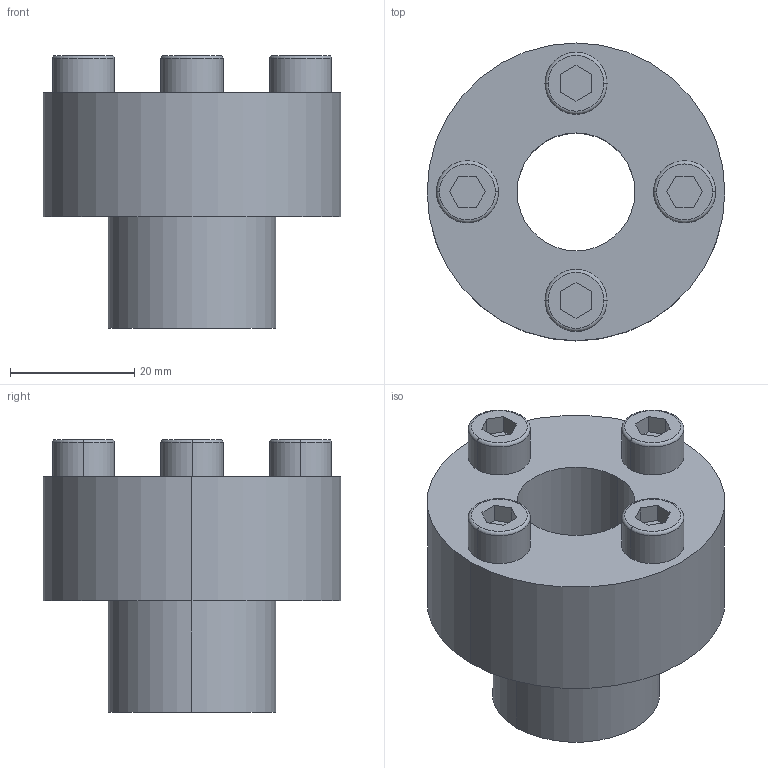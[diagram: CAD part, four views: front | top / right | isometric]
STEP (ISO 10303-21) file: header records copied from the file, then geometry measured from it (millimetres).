
FILE_DESCRIPTION (( 'STEP AP203' ), '1' );
FILE_NAME ('PL-C 19-27.STEP', '2021-10-22T08:29:56', ( '' ), ( '' ), 'SwSTEP 2.0', 'SolidWorks 2018', '' );
FILE_SCHEMA (( 'CONFIG_CONTROL_DESIGN' ));
Length unit declared in the file: millimetre
Products named in the file (1): PL-C 19-27
Bounding box: 48 x 48 x 44 mm (x, y, z)
Volume: 37341.6 mm3; surface area: 10797.4 mm2
Topology: 1 solids, 1 shells, 57 faces, 130 edges, 84 vertices
Faces by surface type: plane 35, cylinder 14, torus 8
Entity records: 1685 total; most frequent: DIRECTION 290, CARTESIAN_POINT 272, ORIENTED_EDGE 260, EDGE_CURVE 130, AXIS2_PLACEMENT_3D 102, LINE 86, VECTOR 86, VERTEX_POINT 84
